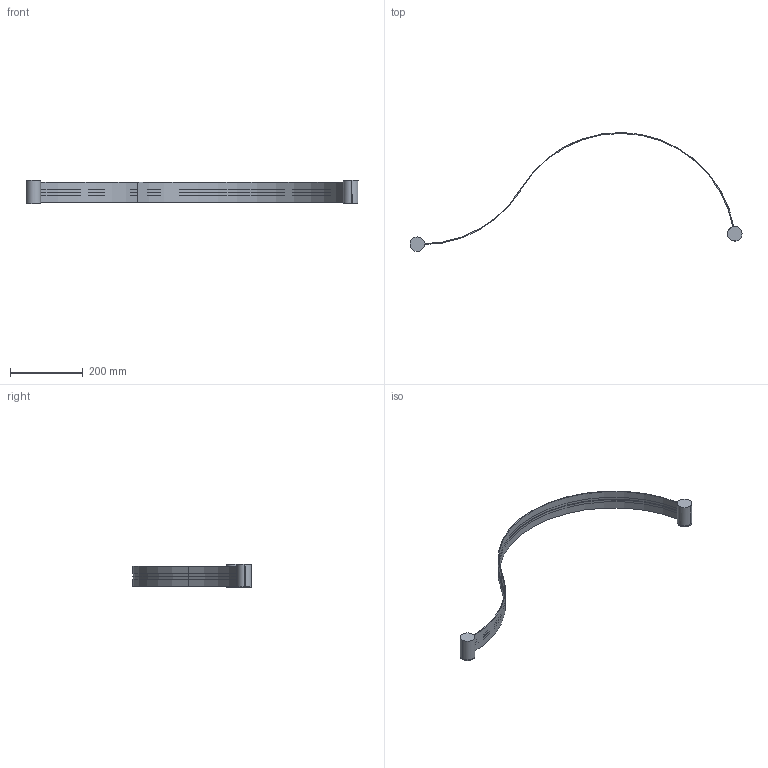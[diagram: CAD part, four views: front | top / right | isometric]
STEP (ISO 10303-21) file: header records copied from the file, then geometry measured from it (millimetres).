
FILE_DESCRIPTION((''),'2;1');
FILE_NAME('PRT0024','2025-05-20T15:04:45',('elena.baldelli'),(''),'CREO PARAMETRIC BY PTC INC, 2020354','CREO PARAMETRIC BY PTC INC, 2020354','');
FILE_SCHEMA(('CONFIG_CONTROL_DESIGN'));
Length unit declared in the file: millimetre
Products named in the file (1): PRT0024
Bounding box: 911.17 x 326.63 x 65 mm (x, y, z)
Volume: 81681.4 mm3; surface area: 159936.8 mm2
Topology: 1 solids, 21 shells, 95 faces, 471 edges, 387 vertices
Faces by surface type: cylinder 45, plane 33, cone 17
Entity records: 7218 total; most frequent: CARTESIAN_POINT 3940, ORIENTED_EDGE 643, DIRECTION 526, EDGE_CURVE 471, VERTEX_POINT 387, B_SPLINE_CURVE_WITH_KNOTS 227, AXIS2_PLACEMENT_3D 186, VECTOR 154
